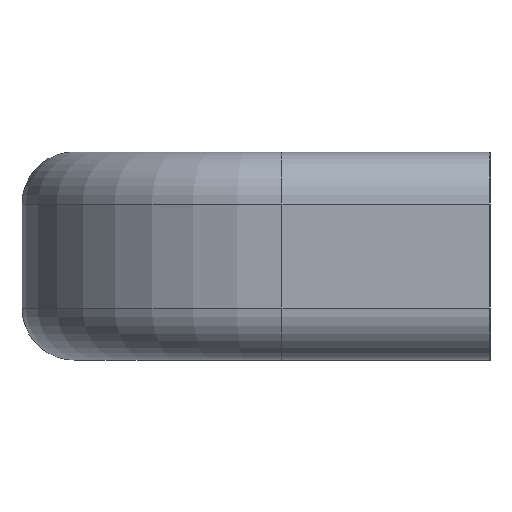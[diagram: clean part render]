
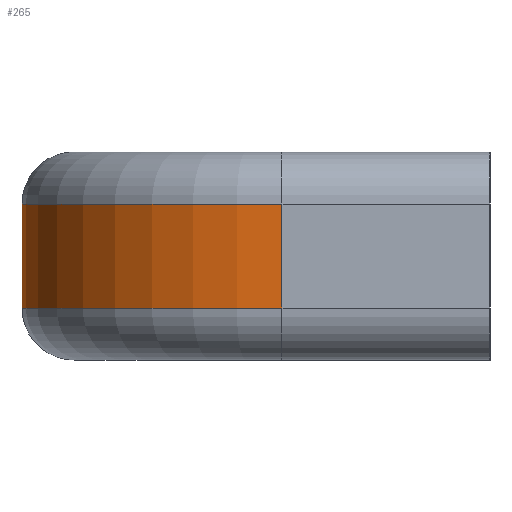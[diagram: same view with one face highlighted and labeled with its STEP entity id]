
A CAD part, left-side view. The second image highlights one B-rep face of the part: STEP entity #265.
In plain terms, the highlighted cylindrical face has radius 25 mm (diameter 50 mm), a partial arc.
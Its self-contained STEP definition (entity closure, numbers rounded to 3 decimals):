
#30 = VERTEX_POINT ( 'NONE', #409 ) ;
#129 = EDGE_CURVE ( 'NONE', #130, #131, #560, .T. ) ;
#130 = VERTEX_POINT ( 'NONE', #556 ) ;
#131 = VERTEX_POINT ( 'NONE', #555 ) ;
#195 = ORIENTED_EDGE ( 'NONE', *, *, #129, .F. ) ;
#196 = ORIENTED_EDGE ( 'NONE', *, *, #197, .F. ) ;
#197 = EDGE_CURVE ( 'NONE', #30, #130, #869, .T. ) ;
#198 = ORIENTED_EDGE ( 'NONE', *, *, #199, .T. ) ;
#199 = EDGE_CURVE ( 'NONE', #292, #131, #864, .T. ) ;
#265 = ADVANCED_FACE ( 'NONE', ( #803 ), #797, .T. ) ;
#266 = EDGE_LOOP ( 'NONE', ( #290, #198, #195, #196 ) ) ;
#290 = ORIENTED_EDGE ( 'NONE', *, *, #291, .T. ) ;
#291 = EDGE_CURVE ( 'NONE', #30, #292, #753, .T. ) ;
#292 = VERTEX_POINT ( 'NONE', #749 ) ;
#409 = CARTESIAN_POINT ( 'NONE',  ( -65., 20., -5. ) ) ;
#555 = CARTESIAN_POINT ( 'NONE',  ( -40., 45., 5. ) ) ;
#556 = CARTESIAN_POINT ( 'NONE',  ( -40., 45., -5. ) ) ;
#557 = DIRECTION ( 'NONE',  ( 0., 0., 1. ) ) ;
#558 = VECTOR ( 'NONE', #557, 1000. ) ;
#559 = CARTESIAN_POINT ( 'NONE',  ( -40., 45., 5. ) ) ;
#560 = LINE ( 'NONE', #559, #558 ) ;
#749 = CARTESIAN_POINT ( 'NONE',  ( -65., 20., 5. ) ) ;
#750 = VECTOR ( 'NONE', #751, 1000. ) ;
#751 = DIRECTION ( 'NONE',  ( 0., 0., 1. ) ) ;
#752 = CARTESIAN_POINT ( 'NONE',  ( -65., 20., 5. ) ) ;
#753 = LINE ( 'NONE', #752, #750 ) ;
#793 = DIRECTION ( 'NONE',  ( -1., 0., 0. ) ) ;
#794 = DIRECTION ( 'NONE',  ( 0., 0., -1. ) ) ;
#795 = AXIS2_PLACEMENT_3D ( 'NONE', #796, #794, #793 ) ;
#796 = CARTESIAN_POINT ( 'NONE',  ( -40., 20., 0. ) ) ;
#797 = CYLINDRICAL_SURFACE ( 'NONE', #795, 25. ) ;
#803 = FACE_OUTER_BOUND ( 'NONE', #266, .T. ) ;
#860 = DIRECTION ( 'NONE',  ( -1., 0., 0. ) ) ;
#861 = DIRECTION ( 'NONE',  ( 0., 0., -1. ) ) ;
#862 = CARTESIAN_POINT ( 'NONE',  ( -40., 20., 5. ) ) ;
#863 = AXIS2_PLACEMENT_3D ( 'NONE', #862, #861, #860 ) ;
#864 = CIRCLE ( 'NONE', #863, 25. ) ;
#865 = DIRECTION ( 'NONE',  ( -1., 0., 0. ) ) ;
#866 = DIRECTION ( 'NONE',  ( 0., 0., -1. ) ) ;
#867 = CARTESIAN_POINT ( 'NONE',  ( -40., 20., -5. ) ) ;
#868 = AXIS2_PLACEMENT_3D ( 'NONE', #867, #866, #865 ) ;
#869 = CIRCLE ( 'NONE', #868, 25. ) ;
